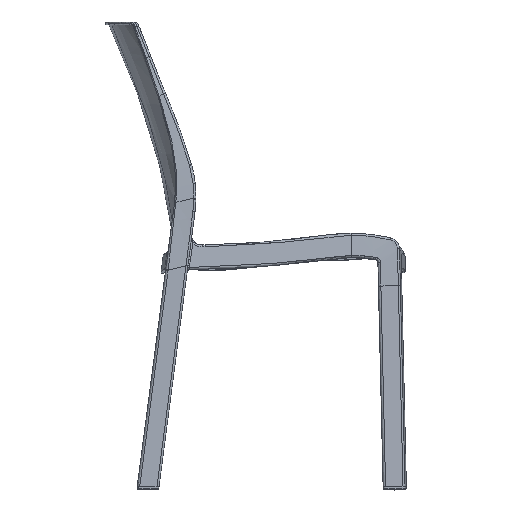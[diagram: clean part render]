
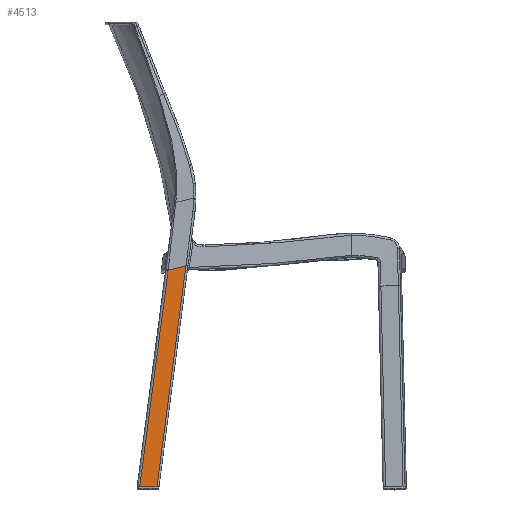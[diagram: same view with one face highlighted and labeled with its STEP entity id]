
A CAD part, left-side view. The second image highlights one B-rep face of the part: STEP entity #4513.
In plain terms, the highlighted planar face has unit normal (-0.993, -0.12, -0.016).
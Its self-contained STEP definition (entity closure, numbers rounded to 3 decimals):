
#1930=PLANE('',#31663);
#4513=ADVANCED_FACE('',(#7061),#1930,.T.);
#7061=FACE_OUTER_BOUND('',#8920,.T.);
#8920=EDGE_LOOP('',(#11974,#11975,#11976,#11977,#11978));
#11974=ORIENTED_EDGE('',*,*,#24450,.F.);
#11975=ORIENTED_EDGE('',*,*,#24472,.T.);
#11976=ORIENTED_EDGE('',*,*,#24473,.F.);
#11977=ORIENTED_EDGE('',*,*,#24474,.F.);
#11978=ORIENTED_EDGE('',*,*,#24290,.F.);
#21024=VERTEX_POINT('',#50680);
#21027=VERTEX_POINT('',#50693);
#21137=VERTEX_POINT('',#54172);
#21150=VERTEX_POINT('',#54519);
#21151=VERTEX_POINT('',#54538);
#24290=EDGE_CURVE('',#21027,#21024,#29043,.T.);
#24450=EDGE_CURVE('',#21137,#21027,#29193,.T.);
#24472=EDGE_CURVE('',#21137,#21150,#29215,.T.);
#24473=EDGE_CURVE('',#21151,#21150,#29216,.T.);
#24474=EDGE_CURVE('',#21024,#21151,#29217,.T.);
#29043=B_SPLINE_CURVE_WITH_KNOTS('',3,(#50694,#50695,#50696,#50697),
 .UNSPECIFIED.,.F.,.F.,(4,4),(0.,1.),.UNSPECIFIED.);
#29193=B_SPLINE_CURVE_WITH_KNOTS('',5,(#54136,#54137,#54138,#54139,#54140,
#54141,#54142,#54143,#54144,#54145,#54146,#54147,#54148,#54149,#54150,#54151,
#54152,#54153,#54154,#54155,#54156,#54157,#54158,#54159,#54160,#54161,#54162,
#54163,#54164,#54165,#54166,#54167,#54168,#54169,#54170,#54171),
 .UNSPECIFIED.,.F.,.F.,(6,3,3,3,3,3,3,3,3,3,3,6),(0.,0.044,
0.137,0.276,0.356,0.451,
0.546,0.6,0.653,0.702,
0.75,1.),.UNSPECIFIED.);
#29215=B_SPLINE_CURVE_WITH_KNOTS('',3,(#54515,#54516,#54517,#54518),
 .UNSPECIFIED.,.F.,.F.,(4,4),(0.,1.),.UNSPECIFIED.);
#29216=B_SPLINE_CURVE_WITH_KNOTS('',5,(#54520,#54521,#54522,#54523,#54524,
#54525,#54526,#54527,#54528,#54529,#54530,#54531,#54532,#54533,#54534,#54535,
#54536,#54537),.UNSPECIFIED.,.F.,.F.,(6,3,3,3,3,6),(0.,0.26,
0.485,0.801,0.964,1.),.UNSPECIFIED.);
#29217=B_SPLINE_CURVE_WITH_KNOTS('',5,(#54539,#54540,#54541,#54542,#54543,
#54544),.UNSPECIFIED.,.F.,.F.,(6,6),(0.,1.),.UNSPECIFIED.);
#31663=AXIS2_PLACEMENT_3D('',#54545,#33375,#33376);
#33375=DIRECTION('',(-0.993,-0.12,-0.016));
#33376=DIRECTION('',(-0.12,0.993,0.));
#50680=CARTESIAN_POINT('',(-236.457,409.306,415.902));
#50693=CARTESIAN_POINT('',(-236.457,409.529,414.2));
#50694=CARTESIAN_POINT('',(-236.453,409.53,414.2));
#50695=CARTESIAN_POINT('',(-236.453,409.455,414.767));
#50696=CARTESIAN_POINT('',(-236.453,409.381,415.335));
#50697=CARTESIAN_POINT('',(-236.452,409.307,415.902));
#54136=CARTESIAN_POINT('',(-236.453,460.689,24.));
#54137=CARTESIAN_POINT('',(-236.453,460.24,27.412));
#54138=CARTESIAN_POINT('',(-236.453,459.792,30.822));
#54139=CARTESIAN_POINT('',(-236.453,459.344,34.232));
#54140=CARTESIAN_POINT('',(-236.453,457.949,44.85));
#54141=CARTESIAN_POINT('',(-236.453,456.551,55.494));
#54142=CARTESIAN_POINT('',(-236.453,455.601,62.72));
#54143=CARTESIAN_POINT('',(-236.453,453.233,80.749));
#54144=CARTESIAN_POINT('',(-236.453,450.857,98.842));
#54145=CARTESIAN_POINT('',(-236.453,449.432,109.696));
#54146=CARTESIAN_POINT('',(-236.453,447.18,126.849));
#54147=CARTESIAN_POINT('',(-236.453,444.924,144.039));
#54148=CARTESIAN_POINT('',(-236.453,444.099,150.327));
#54149=CARTESIAN_POINT('',(-236.453,442.291,164.107));
#54150=CARTESIAN_POINT('',(-236.453,440.48,177.904));
#54151=CARTESIAN_POINT('',(-236.453,439.497,185.4));
#54152=CARTESIAN_POINT('',(-236.453,437.53,200.395));
#54153=CARTESIAN_POINT('',(-236.453,435.566,215.371));
#54154=CARTESIAN_POINT('',(-236.453,434.586,222.847));
#54155=CARTESIAN_POINT('',(-236.453,433.051,234.554));
#54156=CARTESIAN_POINT('',(-236.453,431.52,246.232));
#54157=CARTESIAN_POINT('',(-236.453,430.978,250.363));
#54158=CARTESIAN_POINT('',(-236.453,429.872,258.802));
#54159=CARTESIAN_POINT('',(-236.453,428.768,267.23));
#54160=CARTESIAN_POINT('',(-236.453,428.217,271.43));
#54161=CARTESIAN_POINT('',(-236.453,427.174,279.397));
#54162=CARTESIAN_POINT('',(-236.453,426.131,287.354));
#54163=CARTESIAN_POINT('',(-236.453,425.64,291.102));
#54164=CARTESIAN_POINT('',(-236.453,424.655,298.621));
#54165=CARTESIAN_POINT('',(-236.453,423.671,306.135));
#54166=CARTESIAN_POINT('',(-236.453,423.179,309.889));
#54167=CARTESIAN_POINT('',(-236.453,420.141,333.09));
#54168=CARTESIAN_POINT('',(-236.453,417.111,356.237));
#54169=CARTESIAN_POINT('',(-236.453,414.583,375.559));
#54170=CARTESIAN_POINT('',(-236.453,412.056,394.878));
#54171=CARTESIAN_POINT('',(-236.453,409.53,414.2));
#54172=CARTESIAN_POINT('',(-236.453,460.689,24.));
#54515=CARTESIAN_POINT('',(-236.454,460.689,24.));
#54516=CARTESIAN_POINT('',(-235.193,450.266,24.));
#54517=CARTESIAN_POINT('',(-233.932,439.844,24.));
#54518=CARTESIAN_POINT('',(-232.671,429.422,24.));
#54519=CARTESIAN_POINT('',(-232.67,429.422,24.));
#54520=CARTESIAN_POINT('',(-232.686,377.157,423.62));
#54521=CARTESIAN_POINT('',(-232.686,379.824,403.234));
#54522=CARTESIAN_POINT('',(-232.686,382.49,382.847));
#54523=CARTESIAN_POINT('',(-232.686,385.164,362.395));
#54524=CARTESIAN_POINT('',(-232.685,390.192,323.953));
#54525=CARTESIAN_POINT('',(-232.684,395.263,285.181));
#54526=CARTESIAN_POINT('',(-232.684,397.628,267.1));
#54527=CARTESIAN_POINT('',(-232.682,403.31,223.653));
#54528=CARTESIAN_POINT('',(-232.68,408.994,180.193));
#54529=CARTESIAN_POINT('',(-232.679,412.319,154.77));
#54530=CARTESIAN_POINT('',(-232.676,417.299,116.696));
#54531=CARTESIAN_POINT('',(-232.674,422.233,78.965));
#54532=CARTESIAN_POINT('',(-232.673,423.904,66.184));
#54533=CARTESIAN_POINT('',(-232.672,425.943,50.595));
#54534=CARTESIAN_POINT('',(-232.671,427.981,35.019));
#54535=CARTESIAN_POINT('',(-232.67,428.501,31.045));
#54536=CARTESIAN_POINT('',(-232.67,428.989,27.31));
#54537=CARTESIAN_POINT('',(-232.67,429.422,24.));
#54538=CARTESIAN_POINT('',(-232.69,377.157,423.62));
#54539=CARTESIAN_POINT('',(-236.453,409.307,415.902));
#54540=CARTESIAN_POINT('',(-235.699,402.877,417.446));
#54541=CARTESIAN_POINT('',(-234.946,396.447,418.989));
#54542=CARTESIAN_POINT('',(-234.193,390.017,420.533));
#54543=CARTESIAN_POINT('',(-233.439,383.587,422.077));
#54544=CARTESIAN_POINT('',(-232.686,377.157,423.62));
#54545=CARTESIAN_POINT('',(-233.887,426.009,126.57));
